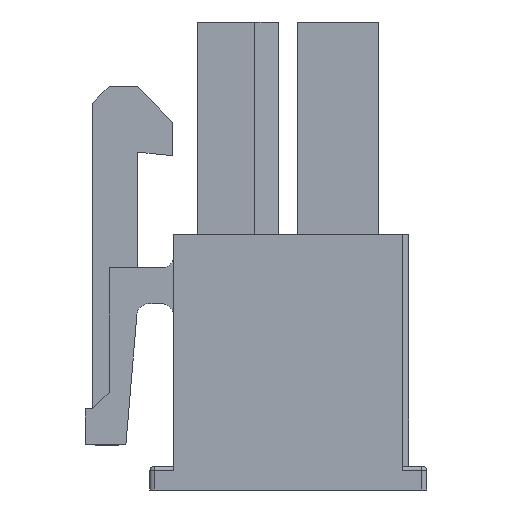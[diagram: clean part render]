
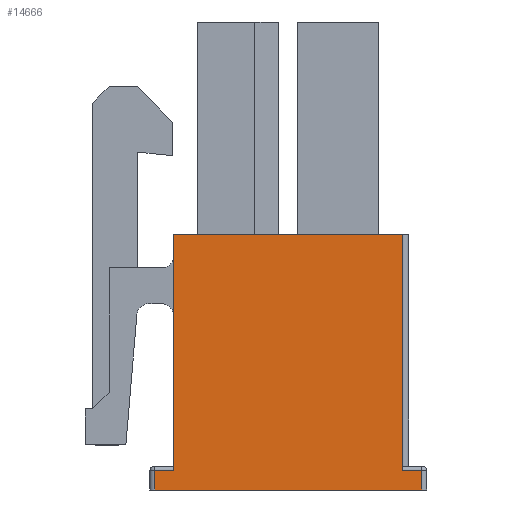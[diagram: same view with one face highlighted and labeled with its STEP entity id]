
A CAD part, left-side view. The second image highlights one B-rep face of the part: STEP entity #14666.
In plain terms, the highlighted planar face has unit normal (-1, 0, 0).
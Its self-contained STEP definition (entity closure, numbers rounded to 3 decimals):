
#1=DIRECTION('',(0.,1.,0.));
#2=VECTOR('',#1,0.8);
#3=CARTESIAN_POINT('',(-25.8,4.8,-9.9));
#4=LINE('',#3,#2);
#73=DIRECTION('',(0.,-1.,0.));
#74=VECTOR('',#73,11.2);
#75=CARTESIAN_POINT('',(-25.8,5.6,-10.7));
#76=LINE('',#75,#74);
#166=DIRECTION('',(0.,0.,-1.));
#167=VECTOR('',#166,9.9);
#168=CARTESIAN_POINT('',(-25.8,4.8,0.));
#169=LINE('',#168,#167);
#422=DIRECTION('',(0.,1.,0.));
#423=VECTOR('',#422,9.6);
#424=CARTESIAN_POINT('',(-25.8,-4.8,0.));
#425=LINE('',#424,#423);
#5658=DIRECTION('',(0.,0.,1.));
#5659=VECTOR('',#5658,9.9);
#5660=CARTESIAN_POINT('',(-25.8,-4.8,-9.9));
#5661=LINE('',#5660,#5659);
#5666=DIRECTION('',(0.,1.,0.));
#5667=VECTOR('',#5666,0.8);
#5668=CARTESIAN_POINT('',(-25.8,-5.6,-9.9));
#5669=LINE('',#5668,#5667);
#5724=DIRECTION('',(0.,0.,1.));
#5725=VECTOR('',#5724,0.8);
#5726=CARTESIAN_POINT('',(-25.8,-5.6,-10.7));
#5727=LINE('',#5726,#5725);
#9851=DIRECTION('',(0.,0.,-1.));
#9852=VECTOR('',#9851,0.8);
#9853=CARTESIAN_POINT('',(-25.8,5.6,-9.9));
#9854=LINE('',#9853,#9852);
#11007=CARTESIAN_POINT('',(-25.8,4.8,-9.9));
#11008=CARTESIAN_POINT('',(-25.8,5.6,-9.9));
#11009=VERTEX_POINT('',#11007);
#11010=VERTEX_POINT('',#11008);
#11011=CARTESIAN_POINT('',(-25.8,-4.8,0.));
#11012=CARTESIAN_POINT('',(-25.8,4.8,0.));
#11013=VERTEX_POINT('',#11011);
#11014=VERTEX_POINT('',#11012);
#11015=CARTESIAN_POINT('',(-25.8,-5.6,-9.9));
#11016=CARTESIAN_POINT('',(-25.8,-4.8,-9.9));
#11017=VERTEX_POINT('',#11015);
#11018=VERTEX_POINT('',#11016);
#11019=CARTESIAN_POINT('',(-25.8,-5.6,-10.7));
#11020=VERTEX_POINT('',#11019);
#11021=CARTESIAN_POINT('',(-25.8,5.6,-10.7));
#11022=VERTEX_POINT('',#11021);
#14643=CARTESIAN_POINT('',(-25.8,0.,-5.35));
#14644=DIRECTION('',(1.,0.,0.));
#14645=DIRECTION('',(0.,-1.,0.));
#14646=AXIS2_PLACEMENT_3D('',#14643,#14644,#14645);
#14647=PLANE('',#14646);
#14649=ORIENTED_EDGE('',*,*,#14648,.F.);
#14651=ORIENTED_EDGE('',*,*,#14650,.F.);
#14653=ORIENTED_EDGE('',*,*,#14652,.F.);
#14655=ORIENTED_EDGE('',*,*,#14654,.F.);
#14657=ORIENTED_EDGE('',*,*,#14656,.F.);
#14659=ORIENTED_EDGE('',*,*,#14658,.F.);
#14661=ORIENTED_EDGE('',*,*,#14660,.F.);
#14663=ORIENTED_EDGE('',*,*,#14662,.F.);
#14664=EDGE_LOOP('',(#14649,#14651,#14653,#14655,#14657,#14659,#14661,#14663));
#14665=FACE_OUTER_BOUND('',#14664,.F.);
#14666=ADVANCED_FACE('',(#14665),#14647,.F.);
#14648=EDGE_CURVE('',#11009,#11010,#4,.T.);
#14650=EDGE_CURVE('',#11014,#11009,#169,.T.);
#14652=EDGE_CURVE('',#11013,#11014,#425,.T.);
#14654=EDGE_CURVE('',#11018,#11013,#5661,.T.);
#14656=EDGE_CURVE('',#11017,#11018,#5669,.T.);
#14658=EDGE_CURVE('',#11020,#11017,#5727,.T.);
#14660=EDGE_CURVE('',#11022,#11020,#76,.T.);
#14662=EDGE_CURVE('',#11010,#11022,#9854,.T.);
